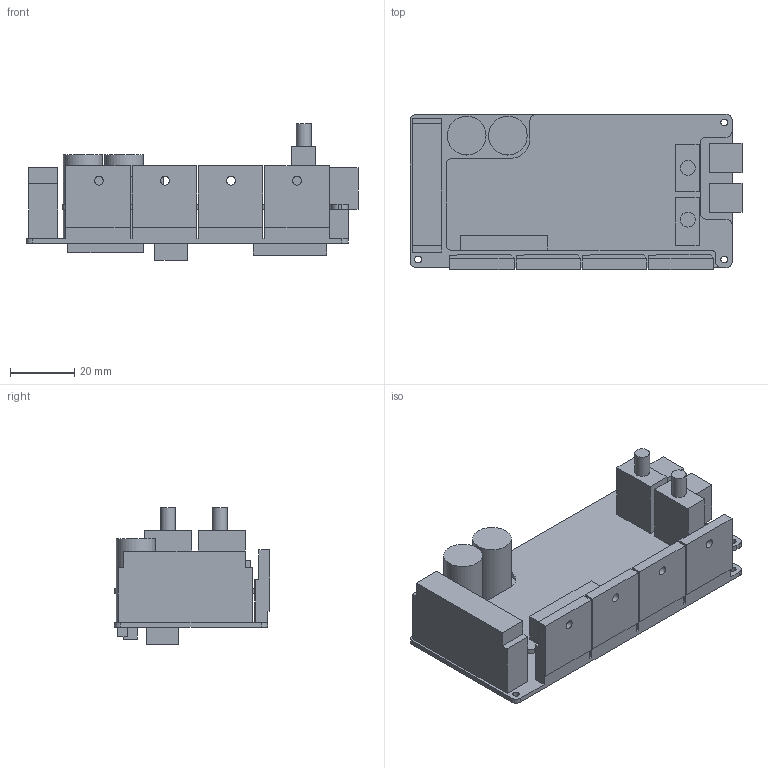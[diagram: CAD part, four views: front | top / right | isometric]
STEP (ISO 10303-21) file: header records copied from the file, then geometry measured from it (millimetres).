
FILE_DESCRIPTION (( 'STEP AP203' ), '1' );
FILE_NAME ('电机驱动K2（202206）.STEP', '2022-06-22T01:43:48', ( 'Windows 用户' ), ( '' ), 'SwSTEP 2.0', 'SolidWorks 2017', '' );
FILE_SCHEMA (( 'CONFIG_CONTROL_DESIGN' ));
Length unit declared in the file: millimetre
Products named in the file (1): 电机驱动K2（202206）
Bounding box: 103 x 48.12 x 42.4 mm (x, y, z)
Volume: 42723 mm3; surface area: 29942.1 mm2
Topology: 2 solids, 2 shells, 144 faces, 391 edges, 262 vertices
Faces by surface type: plane 115, cylinder 29
Full cylindrical faces by diameter (mm): 2.1 x5, 2.7 x4, 4.6 x2, 12 x2
Entity records: 4515 total; most frequent: CARTESIAN_POINT 777, ORIENTED_EDGE 748, DIRECTION 722, EDGE_CURVE 374, LINE 316, VECTOR 316, VERTEX_POINT 258, AXIS2_PLACEMENT_3D 203
